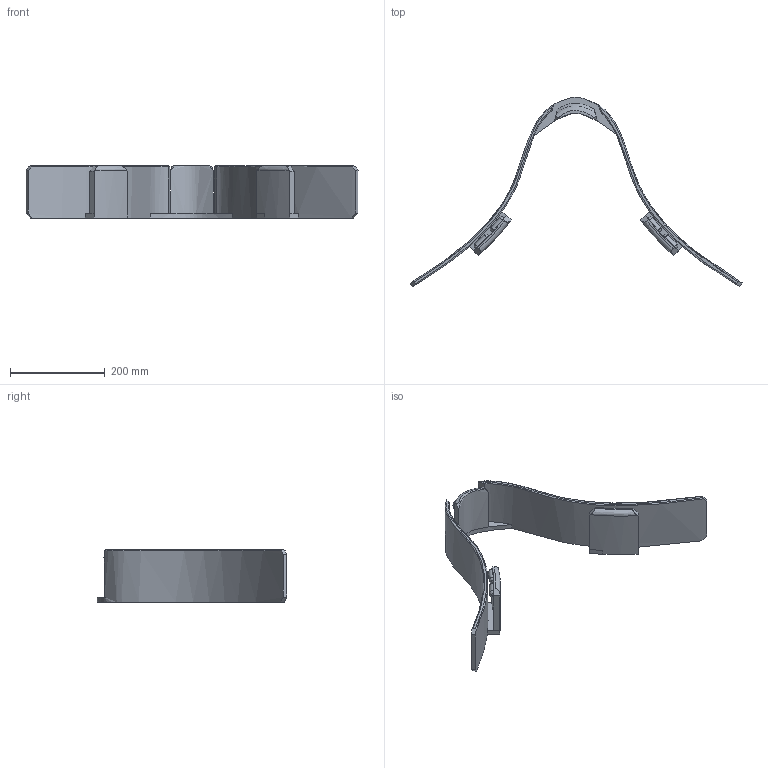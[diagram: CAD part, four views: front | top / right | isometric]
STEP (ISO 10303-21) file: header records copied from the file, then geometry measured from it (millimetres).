
FILE_DESCRIPTION ((), '1');
FILE_NAME ('C:\Users\hp\Documents\OLD\3D\Modely\Maska\Pozicer\KLIP\Pozicer Orig 1.8.stp', '2020-04-04T01:42:00', ('Unknown'), ('Unknown'), 'HarmonyWare STEP v1.4.3', 'HarmonyWare Translators', '');
FILE_SCHEMA (('CONFIG_CONTROL_DESIGN'));
Length unit declared in the file: centimetre
Products named in the file (1): product-name
Bounding box: 700.95 x 400.42 x 110 mm (x, y, z)
Volume: 1299771.9 mm3; surface area: 329211.2 mm2
Topology: 1 solids, 1 shells, 112 faces, 317 edges, 193 vertices
Faces by surface type: bspline 112
Entity records: 10572 total; most frequent: CARTESIAN_POINT 8732, ORIENTED_EDGE 602, EDGE_CURVE 301, B_SPLINE_CURVE_WITH_KNOTS 236, VERTEX_POINT 193, EDGE_LOOP 116, FACE_OUTER_BOUND 112, ADVANCED_FACE 112
